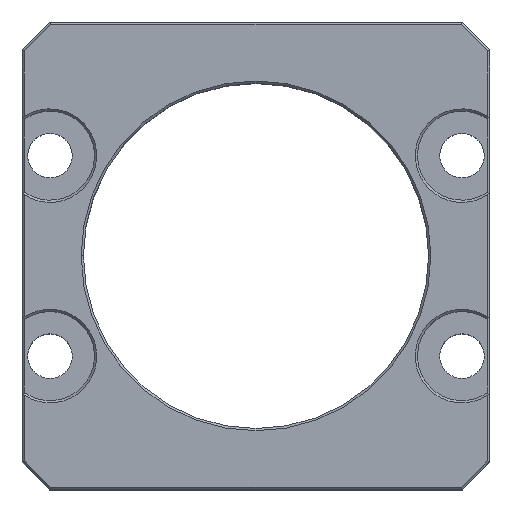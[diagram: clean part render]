
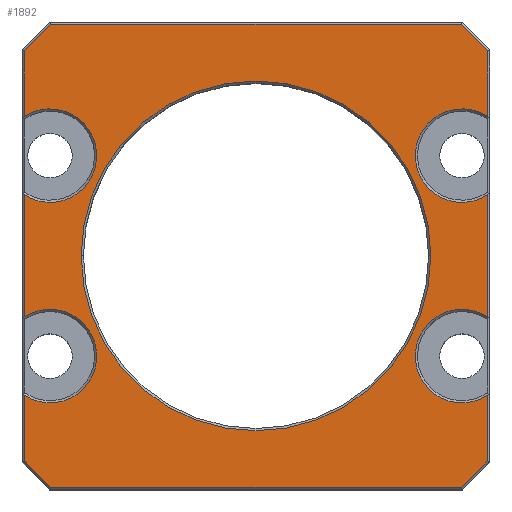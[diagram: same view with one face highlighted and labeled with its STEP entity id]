
A CAD part, top view. The second image highlights one B-rep face of the part: STEP entity #1892.
In plain terms, the highlighted planar face has unit normal (0, 0, 1).
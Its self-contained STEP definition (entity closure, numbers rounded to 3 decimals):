
#371=CARTESIAN_POINT('',(0.,0.,15.));
#372=DIRECTION('',(0.,0.,-1.));
#373=DIRECTION('',(-1.,0.,0.));
#374=AXIS2_PLACEMENT_3D('',#371,#372,#373);
#376=CARTESIAN_POINT('',(0.,0.,15.));
#377=DIRECTION('',(0.,0.,-1.));
#378=DIRECTION('',(1.,0.,0.));
#379=AXIS2_PLACEMENT_3D('',#376,#377,#378);
#381=DIRECTION('',(0.,1.,0.));
#382=VECTOR('',#381,5.903);
#383=CARTESIAN_POINT('',(20.8,12.514,15.));
#384=LINE('',#383,#382);
#385=DIRECTION('',(0.,1.,0.));
#386=VECTOR('',#385,10.971);
#387=CARTESIAN_POINT('',(20.8,-5.486,15.));
#388=LINE('',#387,#386);
#389=DIRECTION('',(0.,1.,0.));
#390=VECTOR('',#389,5.903);
#391=CARTESIAN_POINT('',(20.8,-18.417,15.));
#392=LINE('',#391,#390);
#393=DIRECTION('',(0.707,0.707,0.));
#394=VECTOR('',#393,3.37);
#395=CARTESIAN_POINT('',(18.417,-20.8,15.));
#396=LINE('',#395,#394);
#397=DIRECTION('',(1.,0.,0.));
#398=VECTOR('',#397,36.834);
#399=CARTESIAN_POINT('',(-18.417,-20.8,15.));
#400=LINE('',#399,#398);
#401=DIRECTION('',(0.707,-0.707,0.));
#402=VECTOR('',#401,3.37);
#403=CARTESIAN_POINT('',(-20.8,-18.417,15.));
#404=LINE('',#403,#402);
#405=DIRECTION('',(0.,-1.,0.));
#406=VECTOR('',#405,5.903);
#407=CARTESIAN_POINT('',(-20.8,-12.514,15.));
#408=LINE('',#407,#406);
#409=DIRECTION('',(0.,-1.,0.));
#410=VECTOR('',#409,10.971);
#411=CARTESIAN_POINT('',(-20.8,5.486,15.));
#412=LINE('',#411,#410);
#413=DIRECTION('',(0.,-1.,0.));
#414=VECTOR('',#413,5.903);
#415=CARTESIAN_POINT('',(-20.8,18.417,15.));
#416=LINE('',#415,#414);
#417=DIRECTION('',(-0.707,-0.707,0.));
#418=VECTOR('',#417,3.37);
#419=CARTESIAN_POINT('',(-18.417,20.8,15.));
#420=LINE('',#419,#418);
#421=DIRECTION('',(-1.,0.,0.));
#422=VECTOR('',#421,36.834);
#423=CARTESIAN_POINT('',(18.417,20.8,15.));
#424=LINE('',#423,#422);
#425=DIRECTION('',(-0.707,0.707,0.));
#426=VECTOR('',#425,3.37);
#427=CARTESIAN_POINT('',(20.8,18.417,15.));
#428=LINE('',#427,#426);
#552=CARTESIAN_POINT('',(-18.5,9.,15.));
#553=DIRECTION('',(0.,0.,-1.));
#554=DIRECTION('',(-0.548,0.837,0.));
#555=AXIS2_PLACEMENT_3D('',#552,#553,#554);
#608=CARTESIAN_POINT('',(-18.5,-9.,15.));
#609=DIRECTION('',(0.,0.,-1.));
#610=DIRECTION('',(-0.548,0.837,0.));
#611=AXIS2_PLACEMENT_3D('',#608,#609,#610);
#939=CARTESIAN_POINT('',(18.5,-9.,15.));
#940=DIRECTION('',(0.,0.,-1.));
#941=DIRECTION('',(0.548,-0.837,0.));
#942=AXIS2_PLACEMENT_3D('',#939,#940,#941);
#1069=CARTESIAN_POINT('',(18.5,9.,15.));
#1070=DIRECTION('',(0.,0.,-1.));
#1071=DIRECTION('',(0.548,-0.837,0.));
#1072=AXIS2_PLACEMENT_3D('',#1069,#1070,#1071);
#1149=CARTESIAN_POINT('',(-15.7,0.,15.));
#1150=CARTESIAN_POINT('',(15.7,0.,15.));
#1151=VERTEX_POINT('',#1149);
#1152=VERTEX_POINT('',#1150);
#1161=CARTESIAN_POINT('',(20.8,12.514,15.));
#1162=CARTESIAN_POINT('',(20.8,18.417,15.));
#1163=VERTEX_POINT('',#1161);
#1164=VERTEX_POINT('',#1162);
#1167=CARTESIAN_POINT('',(18.417,20.8,15.));
#1168=VERTEX_POINT('',#1167);
#1171=CARTESIAN_POINT('',(-18.417,20.8,15.));
#1172=VERTEX_POINT('',#1171);
#1173=CARTESIAN_POINT('',(-20.8,18.417,15.));
#1174=VERTEX_POINT('',#1173);
#1177=CARTESIAN_POINT('',(-20.8,12.514,15.));
#1178=VERTEX_POINT('',#1177);
#1195=CARTESIAN_POINT('',(-20.8,5.486,15.));
#1196=CARTESIAN_POINT('',(-20.8,-5.486,
15.));
#1197=VERTEX_POINT('',#1195);
#1198=VERTEX_POINT('',#1196);
#1217=CARTESIAN_POINT('',(-20.8,-12.514,
15.));
#1218=CARTESIAN_POINT('',(-20.8,-18.417,15.));
#1219=VERTEX_POINT('',#1217);
#1220=VERTEX_POINT('',#1218);
#1223=CARTESIAN_POINT('',(-18.417,-20.8,15.));
#1224=VERTEX_POINT('',#1223);
#1227=CARTESIAN_POINT('',(18.417,-20.8,15.));
#1228=VERTEX_POINT('',#1227);
#1231=CARTESIAN_POINT('',(20.8,-18.417,15.));
#1232=VERTEX_POINT('',#1231);
#1233=CARTESIAN_POINT('',(20.8,-12.514,15.));
#1234=VERTEX_POINT('',#1233);
#1251=CARTESIAN_POINT('',(20.8,-5.486,15.));
#1252=CARTESIAN_POINT('',(20.8,5.486,15.));
#1253=VERTEX_POINT('',#1251);
#1254=VERTEX_POINT('',#1252);
#1848=CARTESIAN_POINT('',(0.,0.,15.));
#1849=DIRECTION('',(0.,0.,1.));
#1850=DIRECTION('',(1.,0.,0.));
#1851=AXIS2_PLACEMENT_3D('',#1848,#1849,#1850);
#1852=PLANE('',#1851);
#1854=ORIENTED_EDGE('',*,*,#1853,.F.);
#1856=ORIENTED_EDGE('',*,*,#1855,.F.);
#1858=ORIENTED_EDGE('',*,*,#1857,.F.);
#1860=ORIENTED_EDGE('',*,*,#1859,.F.);
#1862=ORIENTED_EDGE('',*,*,#1861,.F.);
#1864=ORIENTED_EDGE('',*,*,#1863,.F.);
#1866=ORIENTED_EDGE('',*,*,#1865,.F.);
#1868=ORIENTED_EDGE('',*,*,#1867,.F.);
#1870=ORIENTED_EDGE('',*,*,#1869,.F.);
#1872=ORIENTED_EDGE('',*,*,#1871,.F.);
#1874=ORIENTED_EDGE('',*,*,#1873,.F.);
#1876=ORIENTED_EDGE('',*,*,#1875,.F.);
#1878=ORIENTED_EDGE('',*,*,#1877,.F.);
#1880=ORIENTED_EDGE('',*,*,#1879,.F.);
#1882=ORIENTED_EDGE('',*,*,#1881,.F.);
#1884=ORIENTED_EDGE('',*,*,#1883,.F.);
#1885=EDGE_LOOP('',(#1854,#1856,#1858,#1860,#1862,#1864,#1866,#1868,#1870,#1872,
#1874,#1876,#1878,#1880,#1882,#1884));
#1886=FACE_OUTER_BOUND('',#1885,.F.);
#1887=ORIENTED_EDGE('',*,*,#1838,.F.);
#1889=ORIENTED_EDGE('',*,*,#1888,.F.);
#1890=EDGE_LOOP('',(#1887,#1889));
#1891=FACE_BOUND('',#1890,.F.);
#375=CIRCLE('',#374,15.7);
#380=CIRCLE('',#379,15.7);
#556=CIRCLE('',#555,4.2);
#612=CIRCLE('',#611,4.2);
#943=CIRCLE('',#942,4.2);
#1073=CIRCLE('',#1072,4.2);
#1838=EDGE_CURVE('',#1151,#1152,#375,.T.);
#1853=EDGE_CURVE('',#1163,#1164,#384,.T.);
#1855=EDGE_CURVE('',#1254,#1163,#1073,.T.);
#1857=EDGE_CURVE('',#1253,#1254,#388,.T.);
#1859=EDGE_CURVE('',#1234,#1253,#943,.T.);
#1861=EDGE_CURVE('',#1232,#1234,#392,.T.);
#1863=EDGE_CURVE('',#1228,#1232,#396,.T.);
#1865=EDGE_CURVE('',#1224,#1228,#400,.T.);
#1867=EDGE_CURVE('',#1220,#1224,#404,.T.);
#1869=EDGE_CURVE('',#1219,#1220,#408,.T.);
#1871=EDGE_CURVE('',#1198,#1219,#612,.T.);
#1873=EDGE_CURVE('',#1197,#1198,#412,.T.);
#1875=EDGE_CURVE('',#1178,#1197,#556,.T.);
#1877=EDGE_CURVE('',#1174,#1178,#416,.T.);
#1879=EDGE_CURVE('',#1172,#1174,#420,.T.);
#1881=EDGE_CURVE('',#1168,#1172,#424,.T.);
#1883=EDGE_CURVE('',#1164,#1168,#428,.T.);
#1888=EDGE_CURVE('',#1152,#1151,#380,.T.);
#1892=ADVANCED_FACE('',(#1886,#1891),#1852,.T.);
